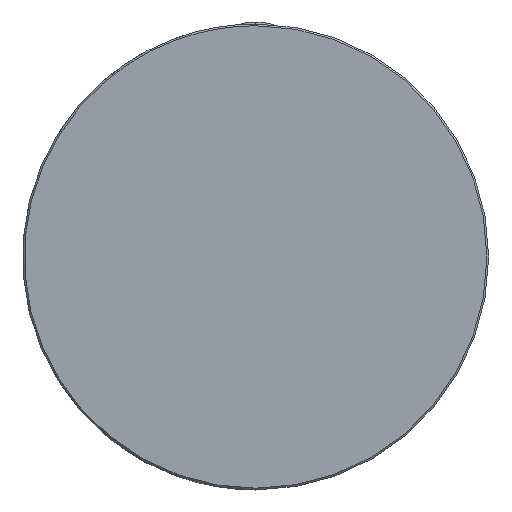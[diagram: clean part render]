
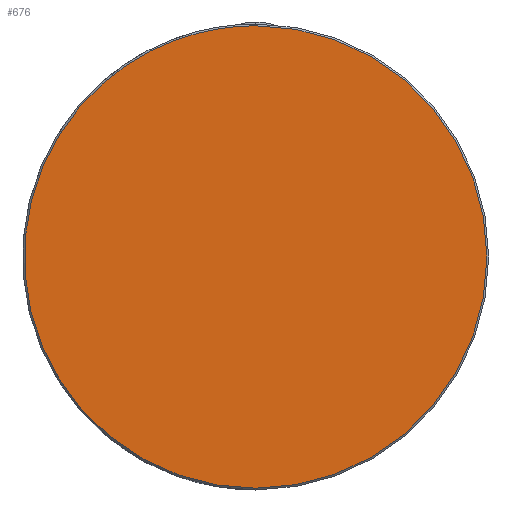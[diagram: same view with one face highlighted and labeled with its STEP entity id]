
A CAD part, front view. The second image highlights one B-rep face of the part: STEP entity #676.
In plain terms, the highlighted planar face has unit normal (0, -1, 0).
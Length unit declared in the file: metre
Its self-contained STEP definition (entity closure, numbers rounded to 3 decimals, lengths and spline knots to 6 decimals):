
#20=EDGE_CURVE('',#21,#23,#25,.F.);
#21=VERTEX_POINT('',#22);
#22=CARTESIAN_POINT('',(0.0,0.0,-0.0263));
#23=VERTEX_POINT('',#24);
#24=CARTESIAN_POINT('',(0.0,0.0,0.0263));
#25=CIRCLE('',#26,0.0263);
#26=AXIS2_PLACEMENT_3D('',#27,#28,#29);
#27=CARTESIAN_POINT('',(0.0,0.0,0.0));
#28=DIRECTION('',(0.0,1.0,0.0));
#29=DIRECTION('',(0.0,0.0,1.0));
#676=ADVANCED_FACE('',(#682),#677,.F.);
#677=PLANE('',#678);
#678=AXIS2_PLACEMENT_3D('',#679,#680,#681);
#679=CARTESIAN_POINT('',(0.0,0.0,0.0265));
#680=DIRECTION('',(0.0,1.0,0.0));
#681=DIRECTION('',(0.0,0.0,1.0));
#682=FACE_OUTER_BOUND('',#683,.T.);
#683=EDGE_LOOP('',(#684,#692));
#684=ORIENTED_EDGE('',*,*,#686,.T.);
#685=CARTESIAN_POINT('',(0.0,0.0,-0.0263));
#686=EDGE_CURVE('',#23,#21,#687,.F.);
#687=(B_SPLINE_CURVE(3,(#685,#688,#689,#690),.UNSPECIFIED.,.F.,.U.)B_SPLINE_CURVE_WITH_KNOTS(
  (4,4),(0.0,1.0),.UNSPECIFIED.)BOUNDED_CURVE()CURVE()GEOMETRIC_REPRESENTATION_ITEM(
  )RATIONAL_B_SPLINE_CURVE((1.0,0.333,0.333,1.0)
  )REPRESENTATION_ITEM(''));
#688=CARTESIAN_POINT('',(-0.0526,0.0,-0.0263));
#689=CARTESIAN_POINT('',(-0.0526,0.0,0.0263));
#690=CARTESIAN_POINT('',(0.0,0.0,0.0263));
#692=ORIENTED_EDGE('',*,*,#20,.T.);
